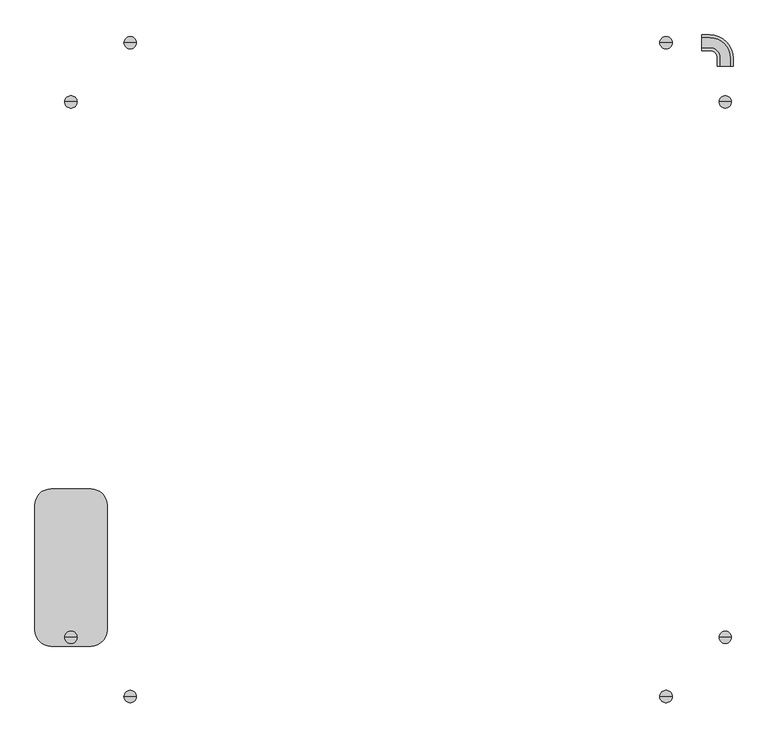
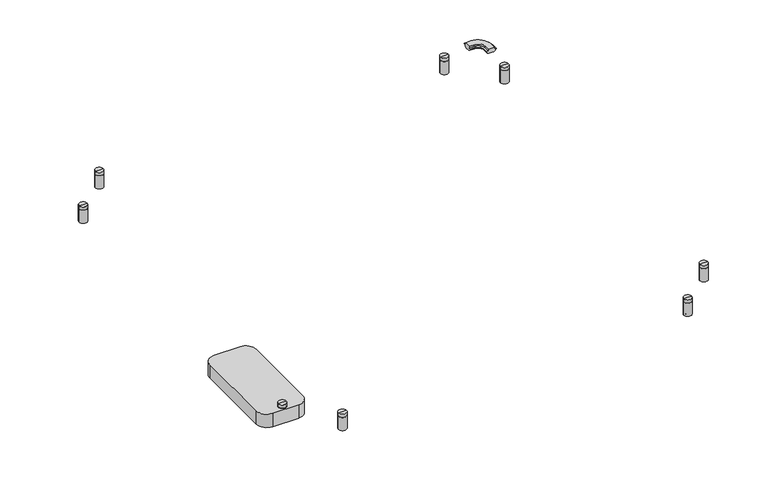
"""IFC4 building model written with IfcOpenShell, lengths in millimetres: light fixture geometry, ARTEMIDE-AoL-StandAlone-SquareRectangular_WallCeiling : StandALone_WallCeiling_SquareRectangular-1321x1321mm 9488lm 3000K."""

from ifc_helpers import new_model, si_unit, point, frame, frame_2d, origin, origin_with_axes, place, context, project, spatial, polyline, circle_curve, ellipse_curve, trimmed, segment, composite_curve, outline, extrude, source, transform, mapped, element, save
from ifc_brep_helpers import plane_surface, cylinder_surface, revolved_surface, advanced_brep


def light_fixture_6c686f26(model_context):
    return source(origin(), model_context, "Body", "SolidModel", [
        advanced_brep(
        [(152.0, 1156.0, 1.0), (128.0, 1156.0, 1.0), (134.5, 1156.0, 1.0), (145.5, 1156.0, 1.0), (152.0, 1156.0, 42.5), (128.0, 1156.0, 42.5), (149.5243756, 1156.0, 42.5), (130.4756244, 1156.0, 42.5), (149.5243756, 1156.0, 43.4995055), (130.4756244, 1156.0, 43.4995055), (152.0, 1156.0, 43.4995055), (128.0, 1156.0, 43.4995055), (152.0, 1156.0, 52.9579379), (128.0, 1156.0, 52.9579379), (140.0, 1156.0, 52.9579379), (145.5, 1156.0, 0.0), (134.5, 1156.0, 0.0), (140.0, 1156.0, 0.0)],
        [
            (0, 1, circle_curve(frame((140.0, 1156.0, 1.0), z_axis=(0.0, 0.0, -1.0), x_axis=(-1.0, 0.0, 0.0)), 12.0)),
            (1, 2),
            (2, 3, circle_curve(frame((140.0, 1156.0, 1.0), z_axis=(0.0, 0.0, 1.0), x_axis=(-1.0, 0.0, 0.0)), 5.5)),
            (3, 0),
            (1, 0, circle_curve(frame((140.0, 1156.0, 1.0), z_axis=(0.0, 0.0, -1.0), x_axis=(-1.0, 0.0, 0.0)), 12.0)),
            (3, 2, circle_curve(frame((140.0, 1156.0, 1.0), z_axis=(0.0, 0.0, 1.0), x_axis=(-1.0, 0.0, 0.0)), 5.5)),
            (4, 5, circle_curve(frame((140.0, 1156.0, 42.5), z_axis=(0.0, 0.0, -1.0), x_axis=(-1.0, 0.0, 0.0)), 12.0)),
            (5, 1),
            (0, 4),
            (5, 4, circle_curve(frame((140.0, 1156.0, 42.5), z_axis=(0.0, 0.0, -1.0), x_axis=(-1.0, 0.0, 0.0)), 12.0)),
            (6, 7, circle_curve(frame((140.0, 1156.0, 42.5), z_axis=(0.0, 0.0, -1.0), x_axis=(-1.0, 0.0, 0.0)), 9.5243756)),
            (7, 5),
            (4, 6),
            (7, 6, circle_curve(frame((140.0, 1156.0, 42.5), z_axis=(0.0, 0.0, -1.0), x_axis=(-1.0, 0.0, 0.0)), 9.5243756)),
            (8, 9, circle_curve(frame((140.0, 1156.0, 43.4995055), z_axis=(0.0, 0.0, -1.0), x_axis=(-1.0, 0.0, 0.0)), 9.5243756)),
            (9, 7),
            (6, 8),
            (9, 8, circle_curve(frame((140.0, 1156.0, 43.4995055), z_axis=(0.0, 0.0, -1.0), x_axis=(-1.0, 0.0, 0.0)), 9.5243756)),
            (10, 11, circle_curve(frame((140.0, 1156.0, 43.4995055), z_axis=(0.0, 0.0, -1.0), x_axis=(-1.0, 0.0, 0.0)), 12.0)),
            (11, 9),
            (8, 10),
            (11, 10, circle_curve(frame((140.0, 1156.0, 43.4995055), z_axis=(0.0, 0.0, -1.0), x_axis=(-1.0, 0.0, 0.0)), 12.0)),
            (12, 13, circle_curve(frame((140.0, 1156.0, 52.9579379), z_axis=(0.0, 0.0, -1.0), x_axis=(-1.0, 0.0, 0.0)), 12.0)),
            (13, 11),
            (10, 12),
            (13, 12, circle_curve(frame((140.0, 1156.0, 52.9579379), z_axis=(0.0, 0.0, -1.0), x_axis=(-1.0, 0.0, 0.0)), 12.0)),
            (14, 13),
            (12, 14),
            (15, 16, circle_curve(frame((140.0, 1156.0, 0.0), z_axis=(0.0, 0.0, -1.0), x_axis=(-1.0, 0.0, 0.0)), 5.5)),
            (16, 17),
            (17, 15),
            (16, 15, circle_curve(frame((140.0, 1156.0, 0.0), z_axis=(0.0, 0.0, -1.0), x_axis=(-1.0, 0.0, 0.0)), 5.5)),
            (2, 16),
            (15, 3),
        ],
        [
            plane_surface(frame((140.0, 1156.0, 1.0), z_axis=(0.0, 0.0, -1.0), x_axis=(-1.0, 0.0, 0.0))),
            cylinder_surface(frame((140.0, 1156.0, -58.83358), z_axis=(0.0, 0.0, 1.0), x_axis=(-1.0, 0.0, 0.0)), 12.0),
            plane_surface(frame((140.0, 1156.0, 42.5), z_axis=(0.0, 0.0, 1.0), x_axis=(-1.0, 0.0, 0.0))),
            cylinder_surface(frame((140.0, 1156.0, -58.83358), z_axis=(0.0, 0.0, 1.0), x_axis=(-1.0, 0.0, 0.0)), 9.5243756),
            plane_surface(frame((140.0, 1156.0, 43.4995055), z_axis=(0.0, 0.0, -1.0), x_axis=(-1.0, 0.0, 0.0))),
            plane_surface(frame((140.0, 1156.0, 52.9579379), z_axis=(0.0, 0.0, 1.0), x_axis=(-1.0, 0.0, 0.0))),
            plane_surface(frame((140.0, 1156.0, 0.0), z_axis=(0.0, 0.0, -1.0), x_axis=(-1.0, 0.0, 0.0))),
            cylinder_surface(frame((140.0, 1156.0, -58.83358), z_axis=(0.0, 0.0, 1.0), x_axis=(-1.0, 0.0, 0.0)), 5.5),
        ],
        [
            (0, [[1, 2, 3, 4]]),
            (0, [[5, -4, 6, -2]]),
            (1, [[7, 8, -1, 9]]),
            (1, [[10, -9, -5, -8]]),
            (2, [[11, 12, -7, 13]]),
            (2, [[14, -13, -10, -12]]),
            (3, [[15, 16, -11, 17]]),
            (3, [[18, -17, -14, -16]]),
            (4, [[19, 20, -15, 21]]),
            (4, [[22, -21, -18, -20]]),
            (1, [[23, 24, -19, 25]]),
            (1, [[26, -25, -22, -24]]),
            (5, [[27, -23, 28]]),
            (5, [[-28, -26, -27]]),
            (6, [[29, 30, 31]]),
            (6, [[32, -31, -30]]),
            (7, [[-3, 33, -29, 34]]),
            (7, [[-6, -34, -32, -33]]),
        ],
    ),
        advanced_brep(
        [(152.0, -115.0, 1.0), (128.0, -115.0, 1.0), (134.5, -115.0, 1.0), (145.5, -115.0, 1.0), (152.0, -115.0, 42.5), (128.0, -115.0, 42.5), (149.5243756, -115.0, 42.5), (130.4756244, -115.0, 42.5), (149.5243756, -115.0, 43.4995055), (130.4756244, -115.0, 43.4995055), (152.0, -115.0, 43.4995055), (128.0, -115.0, 43.4995055), (152.0, -115.0, 52.9579379), (128.0, -115.0, 52.9579379), (140.0, -115.0, 52.9579379), (145.5, -115.0, 0.0), (134.5, -115.0, 0.0), (140.0, -115.0, 0.0)],
        [
            (0, 1, circle_curve(frame((140.0, -115.0, 1.0), z_axis=(0.0, 0.0, -1.0), x_axis=(-1.0, 0.0, 0.0)), 12.0)),
            (1, 2),
            (2, 3, circle_curve(frame((140.0, -115.0, 1.0), z_axis=(0.0, 0.0, 1.0), x_axis=(-1.0, 0.0, 0.0)), 5.5)),
            (3, 0),
            (1, 0, circle_curve(frame((140.0, -115.0, 1.0), z_axis=(0.0, 0.0, -1.0), x_axis=(-1.0, 0.0, 0.0)), 12.0)),
            (3, 2, circle_curve(frame((140.0, -115.0, 1.0), z_axis=(0.0, 0.0, 1.0), x_axis=(-1.0, 0.0, 0.0)), 5.5)),
            (4, 5, circle_curve(frame((140.0, -115.0, 42.5), z_axis=(0.0, 0.0, -1.0), x_axis=(-1.0, 0.0, 0.0)), 12.0)),
            (5, 1),
            (0, 4),
            (5, 4, circle_curve(frame((140.0, -115.0, 42.5), z_axis=(0.0, 0.0, -1.0), x_axis=(-1.0, 0.0, 0.0)), 12.0)),
            (6, 7, circle_curve(frame((140.0, -115.0, 42.5), z_axis=(0.0, 0.0, -1.0), x_axis=(-1.0, 0.0, 0.0)), 9.5243756)),
            (7, 5),
            (4, 6),
            (7, 6, circle_curve(frame((140.0, -115.0, 42.5), z_axis=(0.0, 0.0, -1.0), x_axis=(-1.0, 0.0, 0.0)), 9.5243756)),
            (8, 9, circle_curve(frame((140.0, -115.0, 43.4995055), z_axis=(0.0, 0.0, -1.0), x_axis=(-1.0, 0.0, 0.0)), 9.5243756)),
            (9, 7),
            (6, 8),
            (9, 8, circle_curve(frame((140.0, -115.0, 43.4995055), z_axis=(0.0, 0.0, -1.0), x_axis=(-1.0, 0.0, 0.0)), 9.5243756)),
            (10, 11, circle_curve(frame((140.0, -115.0, 43.4995055), z_axis=(0.0, 0.0, -1.0), x_axis=(-1.0, 0.0, 0.0)), 12.0)),
            (11, 9),
            (8, 10),
            (11, 10, circle_curve(frame((140.0, -115.0, 43.4995055), z_axis=(0.0, 0.0, -1.0), x_axis=(-1.0, 0.0, 0.0)), 12.0)),
            (12, 13, circle_curve(frame((140.0, -115.0, 52.9579379), z_axis=(0.0, 0.0, -1.0), x_axis=(-1.0, 0.0, 0.0)), 12.0)),
            (13, 11),
            (10, 12),
            (13, 12, circle_curve(frame((140.0, -115.0, 52.9579379), z_axis=(0.0, 0.0, -1.0), x_axis=(-1.0, 0.0, 0.0)), 12.0)),
            (14, 13),
            (12, 14),
            (15, 16, circle_curve(frame((140.0, -115.0, 0.0), z_axis=(0.0, 0.0, -1.0), x_axis=(-1.0, 0.0, 0.0)), 5.5)),
            (16, 17),
            (17, 15),
            (16, 15, circle_curve(frame((140.0, -115.0, 0.0), z_axis=(0.0, 0.0, -1.0), x_axis=(-1.0, 0.0, 0.0)), 5.5)),
            (2, 16),
            (15, 3),
        ],
        [
            plane_surface(frame((140.0, -115.0, 1.0), z_axis=(0.0, 0.0, -1.0), x_axis=(-1.0, 0.0, 0.0))),
            cylinder_surface(frame((140.0, -115.0, -58.83358), z_axis=(0.0, 0.0, 1.0), x_axis=(-1.0, 0.0, 0.0)), 12.0),
            plane_surface(frame((140.0, -115.0, 42.5), z_axis=(0.0, 0.0, 1.0), x_axis=(-1.0, 0.0, 0.0))),
            cylinder_surface(frame((140.0, -115.0, -58.83358), z_axis=(0.0, 0.0, 1.0), x_axis=(-1.0, 0.0, 0.0)), 9.5243756),
            plane_surface(frame((140.0, -115.0, 43.4995055), z_axis=(0.0, 0.0, -1.0), x_axis=(-1.0, 0.0, 0.0))),
            plane_surface(frame((140.0, -115.0, 52.9579379), z_axis=(0.0, 0.0, 1.0), x_axis=(-1.0, 0.0, 0.0))),
            plane_surface(frame((140.0, -115.0, 0.0), z_axis=(0.0, 0.0, -1.0), x_axis=(-1.0, 0.0, 0.0))),
            cylinder_surface(frame((140.0, -115.0, -58.83358), z_axis=(0.0, 0.0, 1.0), x_axis=(-1.0, 0.0, 0.0)), 5.5),
        ],
        [
            (0, [[1, 2, 3, 4]]),
            (0, [[5, -4, 6, -2]]),
            (1, [[7, 8, -1, 9]]),
            (1, [[10, -9, -5, -8]]),
            (2, [[11, 12, -7, 13]]),
            (2, [[14, -13, -10, -12]]),
            (3, [[15, 16, -11, 17]]),
            (3, [[18, -17, -14, -16]]),
            (4, [[19, 20, -15, 21]]),
            (4, [[22, -21, -18, -20]]),
            (1, [[23, 24, -19, 25]]),
            (1, [[26, -25, -22, -24]]),
            (5, [[27, -23, 28]]),
            (5, [[-28, -26, -27]]),
            (6, [[29, 30, 31]]),
            (6, [[32, -31, -30]]),
            (7, [[-3, 33, -29, 34]]),
            (7, [[-6, -34, -32, -33]]),
        ],
    ),
        advanced_brep(
        [(1193.0, 1156.0, 1.0), (1169.0, 1156.0, 1.0), (1175.5, 1156.0, 1.0), (1186.5, 1156.0, 1.0), (1193.0, 1156.0, 42.5), (1169.0, 1156.0, 42.5), (1190.5243756, 1156.0, 42.5), (1171.4756244, 1156.0, 42.5), (1190.5243756, 1156.0, 43.4995055), (1171.4756244, 1156.0, 43.4995055), (1193.0, 1156.0, 43.4995055), (1169.0, 1156.0, 43.4995055), (1193.0, 1156.0, 52.9579379), (1169.0, 1156.0, 52.9579379), (1181.0, 1156.0, 52.9579379), (1186.5, 1156.0, 0.0), (1175.5, 1156.0, 0.0), (1181.0, 1156.0, 0.0)],
        [
            (0, 1, circle_curve(frame((1181.0, 1156.0, 1.0), z_axis=(0.0, 0.0, -1.0), x_axis=(-1.0, 0.0, 0.0)), 12.0)),
            (1, 2),
            (2, 3, circle_curve(frame((1181.0, 1156.0, 1.0), z_axis=(0.0, 0.0, 1.0), x_axis=(-1.0, 0.0, 0.0)), 5.5)),
            (3, 0),
            (1, 0, circle_curve(frame((1181.0, 1156.0, 1.0), z_axis=(0.0, 0.0, -1.0), x_axis=(-1.0, 0.0, 0.0)), 12.0)),
            (3, 2, circle_curve(frame((1181.0, 1156.0, 1.0), z_axis=(0.0, 0.0, 1.0), x_axis=(-1.0, 0.0, 0.0)), 5.5)),
            (4, 5, circle_curve(frame((1181.0, 1156.0, 42.5), z_axis=(0.0, 0.0, -1.0), x_axis=(-1.0, 0.0, 0.0)), 12.0)),
            (5, 1),
            (0, 4),
            (5, 4, circle_curve(frame((1181.0, 1156.0, 42.5), z_axis=(0.0, 0.0, -1.0), x_axis=(-1.0, 0.0, 0.0)), 12.0)),
            (6, 7, circle_curve(frame((1181.0, 1156.0, 42.5), z_axis=(0.0, 0.0, -1.0), x_axis=(-1.0, 0.0, 0.0)), 9.5243756)),
            (7, 5),
            (4, 6),
            (7, 6, circle_curve(frame((1181.0, 1156.0, 42.5), z_axis=(0.0, 0.0, -1.0), x_axis=(-1.0, 0.0, 0.0)), 9.5243756)),
            (8, 9, circle_curve(frame((1181.0, 1156.0, 43.4995055), z_axis=(0.0, 0.0, -1.0), x_axis=(-1.0, 0.0, 0.0)), 9.5243756)),
            (9, 7),
            (6, 8),
            (9, 8, circle_curve(frame((1181.0, 1156.0, 43.4995055), z_axis=(0.0, 0.0, -1.0), x_axis=(-1.0, 0.0, 0.0)), 9.5243756)),
            (10, 11, circle_curve(frame((1181.0, 1156.0, 43.4995055), z_axis=(0.0, 0.0, -1.0), x_axis=(-1.0, 0.0, 0.0)), 12.0)),
            (11, 9),
            (8, 10),
            (11, 10, circle_curve(frame((1181.0, 1156.0, 43.4995055), z_axis=(0.0, 0.0, -1.0), x_axis=(-1.0, 0.0, 0.0)), 12.0)),
            (12, 13, circle_curve(frame((1181.0, 1156.0, 52.9579379), z_axis=(0.0, 0.0, -1.0), x_axis=(-1.0, 0.0, 0.0)), 12.0)),
            (13, 11),
            (10, 12),
            (13, 12, circle_curve(frame((1181.0, 1156.0, 52.9579379), z_axis=(0.0, 0.0, -1.0), x_axis=(-1.0, 0.0, 0.0)), 12.0)),
            (14, 13),
            (12, 14),
            (15, 16, circle_curve(frame((1181.0, 1156.0, 0.0), z_axis=(0.0, 0.0, -1.0), x_axis=(-1.0, 0.0, 0.0)), 5.5)),
            (16, 17),
            (17, 15),
            (16, 15, circle_curve(frame((1181.0, 1156.0, 0.0), z_axis=(0.0, 0.0, -1.0), x_axis=(-1.0, 0.0, 0.0)), 5.5)),
            (2, 16),
            (15, 3),
        ],
        [
            plane_surface(frame((1181.0, 1156.0, 1.0), z_axis=(0.0, 0.0, -1.0), x_axis=(-1.0, 0.0, 0.0))),
            cylinder_surface(frame((1181.0, 1156.0, -58.83358), z_axis=(0.0, 0.0, 1.0), x_axis=(-1.0, 0.0, 0.0)), 12.0),
            plane_surface(frame((1181.0, 1156.0, 42.5), z_axis=(0.0, 0.0, 1.0), x_axis=(-1.0, 0.0, 0.0))),
            cylinder_surface(frame((1181.0, 1156.0, -58.83358), z_axis=(0.0, 0.0, 1.0), x_axis=(-1.0, 0.0, 0.0)), 9.5243756),
            plane_surface(frame((1181.0, 1156.0, 43.4995055), z_axis=(0.0, 0.0, -1.0), x_axis=(-1.0, 0.0, 0.0))),
            plane_surface(frame((1181.0, 1156.0, 52.9579379), z_axis=(0.0, 0.0, 1.0), x_axis=(-1.0, 0.0, 0.0))),
            plane_surface(frame((1181.0, 1156.0, 0.0), z_axis=(0.0, 0.0, -1.0), x_axis=(-1.0, 0.0, 0.0))),
            cylinder_surface(frame((1181.0, 1156.0, -58.83358), z_axis=(0.0, 0.0, 1.0), x_axis=(-1.0, 0.0, 0.0)), 5.5),
        ],
        [
            (0, [[1, 2, 3, 4]]),
            (0, [[5, -4, 6, -2]]),
            (1, [[7, 8, -1, 9]]),
            (1, [[10, -9, -5, -8]]),
            (2, [[11, 12, -7, 13]]),
            (2, [[14, -13, -10, -12]]),
            (3, [[15, 16, -11, 17]]),
            (3, [[18, -17, -14, -16]]),
            (4, [[19, 20, -15, 21]]),
            (4, [[22, -21, -18, -20]]),
            (1, [[23, 24, -19, 25]]),
            (1, [[26, -25, -22, -24]]),
            (5, [[27, -23, 28]]),
            (5, [[-28, -26, -27]]),
            (6, [[29, 30, 31]]),
            (6, [[32, -31, -30]]),
            (7, [[-3, 33, -29, 34]]),
            (7, [[-6, -34, -32, -33]]),
        ],
    ),
        advanced_brep(
        [(1193.0, -115.0, 1.0), (1169.0, -115.0, 1.0), (1175.5, -115.0, 1.0), (1186.5, -115.0, 1.0), (1193.0, -115.0, 42.5), (1169.0, -115.0, 42.5), (1190.5243756, -115.0, 42.5), (1171.4756244, -115.0, 42.5), (1190.5243756, -115.0, 43.4995055), (1171.4756244, -115.0, 43.4995055), (1193.0, -115.0, 43.4995055), (1169.0, -115.0, 43.4995055), (1193.0, -115.0, 52.9579379), (1169.0, -115.0, 52.9579379), (1181.0, -115.0, 52.9579379), (1186.5, -115.0, 0.0), (1175.5, -115.0, 0.0), (1181.0, -115.0, 0.0)],
        [
            (0, 1, circle_curve(frame((1181.0, -115.0, 1.0), z_axis=(0.0, 0.0, -1.0), x_axis=(-1.0, 0.0, 0.0)), 12.0)),
            (1, 2),
            (2, 3, circle_curve(frame((1181.0, -115.0, 1.0), z_axis=(0.0, 0.0, 1.0), x_axis=(-1.0, 0.0, 0.0)), 5.5)),
            (3, 0),
            (1, 0, circle_curve(frame((1181.0, -115.0, 1.0), z_axis=(0.0, 0.0, -1.0), x_axis=(-1.0, 0.0, 0.0)), 12.0)),
            (3, 2, circle_curve(frame((1181.0, -115.0, 1.0), z_axis=(0.0, 0.0, 1.0), x_axis=(-1.0, 0.0, 0.0)), 5.5)),
            (4, 5, circle_curve(frame((1181.0, -115.0, 42.5), z_axis=(0.0, 0.0, -1.0), x_axis=(-1.0, 0.0, 0.0)), 12.0)),
            (5, 1),
            (0, 4),
            (5, 4, circle_curve(frame((1181.0, -115.0, 42.5), z_axis=(0.0, 0.0, -1.0), x_axis=(-1.0, 0.0, 0.0)), 12.0)),
            (6, 7, circle_curve(frame((1181.0, -115.0, 42.5), z_axis=(0.0, 0.0, -1.0), x_axis=(-1.0, 0.0, 0.0)), 9.5243756)),
            (7, 5),
            (4, 6),
            (7, 6, circle_curve(frame((1181.0, -115.0, 42.5), z_axis=(0.0, 0.0, -1.0), x_axis=(-1.0, 0.0, 0.0)), 9.5243756)),
            (8, 9, circle_curve(frame((1181.0, -115.0, 43.4995055), z_axis=(0.0, 0.0, -1.0), x_axis=(-1.0, 0.0, 0.0)), 9.5243756)),
            (9, 7),
            (6, 8),
            (9, 8, circle_curve(frame((1181.0, -115.0, 43.4995055), z_axis=(0.0, 0.0, -1.0), x_axis=(-1.0, 0.0, 0.0)), 9.5243756)),
            (10, 11, circle_curve(frame((1181.0, -115.0, 43.4995055), z_axis=(0.0, 0.0, -1.0), x_axis=(-1.0, 0.0, 0.0)), 12.0)),
            (11, 9),
            (8, 10),
            (11, 10, circle_curve(frame((1181.0, -115.0, 43.4995055), z_axis=(0.0, 0.0, -1.0), x_axis=(-1.0, 0.0, 0.0)), 12.0)),
            (12, 13, circle_curve(frame((1181.0, -115.0, 52.9579379), z_axis=(0.0, 0.0, -1.0), x_axis=(-1.0, 0.0, 0.0)), 12.0)),
            (13, 11),
            (10, 12),
            (13, 12, circle_curve(frame((1181.0, -115.0, 52.9579379), z_axis=(0.0, 0.0, -1.0), x_axis=(-1.0, 0.0, 0.0)), 12.0)),
            (14, 13),
            (12, 14),
            (15, 16, circle_curve(frame((1181.0, -115.0, 0.0), z_axis=(0.0, 0.0, -1.0), x_axis=(-1.0, 0.0, 0.0)), 5.5)),
            (16, 17),
            (17, 15),
            (16, 15, circle_curve(frame((1181.0, -115.0, 0.0), z_axis=(0.0, 0.0, -1.0), x_axis=(-1.0, 0.0, 0.0)), 5.5)),
            (2, 16),
            (15, 3),
        ],
        [
            plane_surface(frame((1181.0, -115.0, 1.0), z_axis=(0.0, 0.0, -1.0), x_axis=(-1.0, 0.0, 0.0))),
            cylinder_surface(frame((1181.0, -115.0, -58.83358), z_axis=(0.0, 0.0, 1.0), x_axis=(-1.0, 0.0, 0.0)), 12.0),
            plane_surface(frame((1181.0, -115.0, 42.5), z_axis=(0.0, 0.0, 1.0), x_axis=(-1.0, 0.0, 0.0))),
            cylinder_surface(frame((1181.0, -115.0, -58.83358), z_axis=(0.0, 0.0, 1.0), x_axis=(-1.0, 0.0, 0.0)), 9.5243756),
            plane_surface(frame((1181.0, -115.0, 43.4995055), z_axis=(0.0, 0.0, -1.0), x_axis=(-1.0, 0.0, 0.0))),
            plane_surface(frame((1181.0, -115.0, 52.9579379), z_axis=(0.0, 0.0, 1.0), x_axis=(-1.0, 0.0, 0.0))),
            plane_surface(frame((1181.0, -115.0, 0.0), z_axis=(0.0, 0.0, -1.0), x_axis=(-1.0, 0.0, 0.0))),
            cylinder_surface(frame((1181.0, -115.0, -58.83358), z_axis=(0.0, 0.0, 1.0), x_axis=(-1.0, 0.0, 0.0)), 5.5),
        ],
        [
            (0, [[1, 2, 3, 4]]),
            (0, [[5, -4, 6, -2]]),
            (1, [[7, 8, -1, 9]]),
            (1, [[10, -9, -5, -8]]),
            (2, [[11, 12, -7, 13]]),
            (2, [[14, -13, -10, -12]]),
            (3, [[15, 16, -11, 17]]),
            (3, [[18, -17, -14, -16]]),
            (4, [[19, 20, -15, 21]]),
            (4, [[22, -21, -18, -20]]),
            (1, [[23, 24, -19, 25]]),
            (1, [[26, -25, -22, -24]]),
            (5, [[27, -23, 28]]),
            (5, [[-28, -26, -27]]),
            (6, [[29, 30, 31]]),
            (6, [[32, -31, -30]]),
            (7, [[-3, 33, -29, 34]]),
            (7, [[-6, -34, -32, -33]]),
        ],
    ),
        advanced_brep(
        [(37.0, 1041.0, 1.0), (13.0, 1041.0, 1.0), (19.5, 1041.0, 1.0), (30.5, 1041.0, 1.0), (37.0, 1041.0, 42.5), (13.0, 1041.0, 42.5), (34.5243756, 1041.0, 42.5), (15.4756244, 1041.0, 42.5), (34.5243756, 1041.0, 43.4995055), (15.4756244, 1041.0, 43.4995055), (37.0, 1041.0, 43.4995055), (13.0, 1041.0, 43.4995055), (37.0, 1041.0, 52.9579379), (13.0, 1041.0, 52.9579379), (25.0, 1041.0, 52.9579379), (30.5, 1041.0, 0.0), (19.5, 1041.0, 0.0), (25.0, 1041.0, 0.0)],
        [
            (0, 1, circle_curve(frame((25.0, 1041.0, 1.0), z_axis=(0.0, 0.0, -1.0), x_axis=(-1.0, 0.0, 0.0)), 12.0)),
            (1, 2),
            (2, 3, circle_curve(frame((25.0, 1041.0, 1.0), z_axis=(0.0, 0.0, 1.0), x_axis=(-1.0, 0.0, 0.0)), 5.5)),
            (3, 0),
            (1, 0, circle_curve(frame((25.0, 1041.0, 1.0), z_axis=(0.0, 0.0, -1.0), x_axis=(-1.0, 0.0, 0.0)), 12.0)),
            (3, 2, circle_curve(frame((25.0, 1041.0, 1.0), z_axis=(0.0, 0.0, 1.0), x_axis=(-1.0, 0.0, 0.0)), 5.5)),
            (4, 5, circle_curve(frame((25.0, 1041.0, 42.5), z_axis=(0.0, 0.0, -1.0), x_axis=(-1.0, 0.0, 0.0)), 12.0)),
            (5, 1),
            (0, 4),
            (5, 4, circle_curve(frame((25.0, 1041.0, 42.5), z_axis=(0.0, 0.0, -1.0), x_axis=(-1.0, 0.0, 0.0)), 12.0)),
            (6, 7, circle_curve(frame((25.0, 1041.0, 42.5), z_axis=(0.0, 0.0, -1.0), x_axis=(-1.0, 0.0, 0.0)), 9.5243756)),
            (7, 5),
            (4, 6),
            (7, 6, circle_curve(frame((25.0, 1041.0, 42.5), z_axis=(0.0, 0.0, -1.0), x_axis=(-1.0, 0.0, 0.0)), 9.5243756)),
            (8, 9, circle_curve(frame((25.0, 1041.0, 43.4995055), z_axis=(0.0, 0.0, -1.0), x_axis=(-1.0, 0.0, 0.0)), 9.5243756)),
            (9, 7),
            (6, 8),
            (9, 8, circle_curve(frame((25.0, 1041.0, 43.4995055), z_axis=(0.0, 0.0, -1.0), x_axis=(-1.0, 0.0, 0.0)), 9.5243756)),
            (10, 11, circle_curve(frame((25.0, 1041.0, 43.4995055), z_axis=(0.0, 0.0, -1.0), x_axis=(-1.0, 0.0, 0.0)), 12.0)),
            (11, 9),
            (8, 10),
            (11, 10, circle_curve(frame((25.0, 1041.0, 43.4995055), z_axis=(0.0, 0.0, -1.0), x_axis=(-1.0, 0.0, 0.0)), 12.0)),
            (12, 13, circle_curve(frame((25.0, 1041.0, 52.9579379), z_axis=(0.0, 0.0, -1.0), x_axis=(-1.0, 0.0, 0.0)), 12.0)),
            (13, 11),
            (10, 12),
            (13, 12, circle_curve(frame((25.0, 1041.0, 52.9579379), z_axis=(0.0, 0.0, -1.0), x_axis=(-1.0, 0.0, 0.0)), 12.0)),
            (14, 13),
            (12, 14),
            (15, 16, circle_curve(frame((25.0, 1041.0, 0.0), z_axis=(0.0, 0.0, -1.0), x_axis=(-1.0, 0.0, 0.0)), 5.5)),
            (16, 17),
            (17, 15),
            (16, 15, circle_curve(frame((25.0, 1041.0, 0.0), z_axis=(0.0, 0.0, -1.0), x_axis=(-1.0, 0.0, 0.0)), 5.5)),
            (2, 16),
            (15, 3),
        ],
        [
            plane_surface(frame((25.0, 1041.0, 1.0), z_axis=(0.0, 0.0, -1.0), x_axis=(-1.0, 0.0, 0.0))),
            cylinder_surface(frame((25.0, 1041.0, -58.83358), z_axis=(0.0, 0.0, 1.0), x_axis=(-1.0, 0.0, 0.0)), 12.0),
            plane_surface(frame((25.0, 1041.0, 42.5), z_axis=(0.0, 0.0, 1.0), x_axis=(-1.0, 0.0, 0.0))),
            cylinder_surface(frame((25.0, 1041.0, -58.83358), z_axis=(0.0, 0.0, 1.0), x_axis=(-1.0, 0.0, 0.0)), 9.5243756),
            plane_surface(frame((25.0, 1041.0, 43.4995055), z_axis=(0.0, 0.0, -1.0), x_axis=(-1.0, 0.0, 0.0))),
            plane_surface(frame((25.0, 1041.0, 52.9579379), z_axis=(0.0, 0.0, 1.0), x_axis=(-1.0, 0.0, 0.0))),
            plane_surface(frame((25.0, 1041.0, 0.0), z_axis=(0.0, 0.0, -1.0), x_axis=(-1.0, 0.0, 0.0))),
            cylinder_surface(frame((25.0, 1041.0, -58.83358), z_axis=(0.0, 0.0, 1.0), x_axis=(-1.0, 0.0, 0.0)), 5.5),
        ],
        [
            (0, [[1, 2, 3, 4]]),
            (0, [[5, -4, 6, -2]]),
            (1, [[7, 8, -1, 9]]),
            (1, [[10, -9, -5, -8]]),
            (2, [[11, 12, -7, 13]]),
            (2, [[14, -13, -10, -12]]),
            (3, [[15, 16, -11, 17]]),
            (3, [[18, -17, -14, -16]]),
            (4, [[19, 20, -15, 21]]),
            (4, [[22, -21, -18, -20]]),
            (1, [[23, 24, -19, 25]]),
            (1, [[26, -25, -22, -24]]),
            (5, [[27, -23, 28]]),
            (5, [[-28, -26, -27]]),
            (6, [[29, 30, 31]]),
            (6, [[32, -31, -30]]),
            (7, [[-3, 33, -29, 34]]),
            (7, [[-6, -34, -32, -33]]),
        ],
    ),
        advanced_brep(
        [(1308.0, 1041.0, 1.0), (1284.0, 1041.0, 1.0), (1290.5, 1041.0, 1.0), (1301.5, 1041.0, 1.0), (1308.0, 1041.0, 42.5), (1284.0, 1041.0, 42.5), (1305.5243756, 1041.0, 42.5), (1286.4756244, 1041.0, 42.5), (1305.5243756, 1041.0, 43.4995055), (1286.4756244, 1041.0, 43.4995055), (1308.0, 1041.0, 43.4995055), (1284.0, 1041.0, 43.4995055), (1308.0, 1041.0, 52.9579379), (1284.0, 1041.0, 52.9579379), (1296.0, 1041.0, 52.9579379), (1301.5, 1041.0, 0.0), (1290.5, 1041.0, 0.0), (1296.0, 1041.0, 0.0)],
        [
            (0, 1, circle_curve(frame((1296.0, 1041.0, 1.0), z_axis=(0.0, 0.0, -1.0), x_axis=(-1.0, 0.0, 0.0)), 12.0)),
            (1, 2),
            (2, 3, circle_curve(frame((1296.0, 1041.0, 1.0), z_axis=(0.0, 0.0, 1.0), x_axis=(-1.0, 0.0, 0.0)), 5.5)),
            (3, 0),
            (1, 0, circle_curve(frame((1296.0, 1041.0, 1.0), z_axis=(0.0, 0.0, -1.0), x_axis=(-1.0, 0.0, 0.0)), 12.0)),
            (3, 2, circle_curve(frame((1296.0, 1041.0, 1.0), z_axis=(0.0, 0.0, 1.0), x_axis=(-1.0, 0.0, 0.0)), 5.5)),
            (4, 5, circle_curve(frame((1296.0, 1041.0, 42.5), z_axis=(0.0, 0.0, -1.0), x_axis=(-1.0, 0.0, 0.0)), 12.0)),
            (5, 1),
            (0, 4),
            (5, 4, circle_curve(frame((1296.0, 1041.0, 42.5), z_axis=(0.0, 0.0, -1.0), x_axis=(-1.0, 0.0, 0.0)), 12.0)),
            (6, 7, circle_curve(frame((1296.0, 1041.0, 42.5), z_axis=(0.0, 0.0, -1.0), x_axis=(-1.0, 0.0, 0.0)), 9.5243756)),
            (7, 5),
            (4, 6),
            (7, 6, circle_curve(frame((1296.0, 1041.0, 42.5), z_axis=(0.0, 0.0, -1.0), x_axis=(-1.0, 0.0, 0.0)), 9.5243756)),
            (8, 9, circle_curve(frame((1296.0, 1041.0, 43.4995055), z_axis=(0.0, 0.0, -1.0), x_axis=(-1.0, 0.0, 0.0)), 9.5243756)),
            (9, 7),
            (6, 8),
            (9, 8, circle_curve(frame((1296.0, 1041.0, 43.4995055), z_axis=(0.0, 0.0, -1.0), x_axis=(-1.0, 0.0, 0.0)), 9.5243756)),
            (10, 11, circle_curve(frame((1296.0, 1041.0, 43.4995055), z_axis=(0.0, 0.0, -1.0), x_axis=(-1.0, 0.0, 0.0)), 12.0)),
            (11, 9),
            (8, 10),
            (11, 10, circle_curve(frame((1296.0, 1041.0, 43.4995055), z_axis=(0.0, 0.0, -1.0), x_axis=(-1.0, 0.0, 0.0)), 12.0)),
            (12, 13, circle_curve(frame((1296.0, 1041.0, 52.9579379), z_axis=(0.0, 0.0, -1.0), x_axis=(-1.0, 0.0, 0.0)), 12.0)),
            (13, 11),
            (10, 12),
            (13, 12, circle_curve(frame((1296.0, 1041.0, 52.9579379), z_axis=(0.0, 0.0, -1.0), x_axis=(-1.0, 0.0, 0.0)), 12.0)),
            (14, 13),
            (12, 14),
            (15, 16, circle_curve(frame((1296.0, 1041.0, 0.0), z_axis=(0.0, 0.0, -1.0), x_axis=(-1.0, 0.0, 0.0)), 5.5)),
            (16, 17),
            (17, 15),
            (16, 15, circle_curve(frame((1296.0, 1041.0, 0.0), z_axis=(0.0, 0.0, -1.0), x_axis=(-1.0, 0.0, 0.0)), 5.5)),
            (2, 16),
            (15, 3),
        ],
        [
            plane_surface(frame((1296.0, 1041.0, 1.0), z_axis=(0.0, 0.0, -1.0), x_axis=(-1.0, 0.0, 0.0))),
            cylinder_surface(frame((1296.0, 1041.0, -58.83358), z_axis=(0.0, 0.0, 1.0), x_axis=(-1.0, 0.0, 0.0)), 12.0),
            plane_surface(frame((1296.0, 1041.0, 42.5), z_axis=(0.0, 0.0, 1.0), x_axis=(-1.0, 0.0, 0.0))),
            cylinder_surface(frame((1296.0, 1041.0, -58.83358), z_axis=(0.0, 0.0, 1.0), x_axis=(-1.0, 0.0, 0.0)), 9.5243756),
            plane_surface(frame((1296.0, 1041.0, 43.4995055), z_axis=(0.0, 0.0, -1.0), x_axis=(-1.0, 0.0, 0.0))),
            plane_surface(frame((1296.0, 1041.0, 52.9579379), z_axis=(0.0, 0.0, 1.0), x_axis=(-1.0, 0.0, 0.0))),
            plane_surface(frame((1296.0, 1041.0, 0.0), z_axis=(0.0, 0.0, -1.0), x_axis=(-1.0, 0.0, 0.0))),
            cylinder_surface(frame((1296.0, 1041.0, -58.83358), z_axis=(0.0, 0.0, 1.0), x_axis=(-1.0, 0.0, 0.0)), 5.5),
        ],
        [
            (0, [[1, 2, 3, 4]]),
            (0, [[5, -4, 6, -2]]),
            (1, [[7, 8, -1, 9]]),
            (1, [[10, -9, -5, -8]]),
            (2, [[11, 12, -7, 13]]),
            (2, [[14, -13, -10, -12]]),
            (3, [[15, 16, -11, 17]]),
            (3, [[18, -17, -14, -16]]),
            (4, [[19, 20, -15, 21]]),
            (4, [[22, -21, -18, -20]]),
            (1, [[23, 24, -19, 25]]),
            (1, [[26, -25, -22, -24]]),
            (5, [[27, -23, 28]]),
            (5, [[-28, -26, -27]]),
            (6, [[29, 30, 31]]),
            (6, [[32, -31, -30]]),
            (7, [[-3, 33, -29, 34]]),
            (7, [[-6, -34, -32, -33]]),
        ],
    ),
        advanced_brep(
        [(37.0, 0.0, 1.0), (13.0, 0.0, 1.0), (19.5, 0.0, 1.0), (30.5, 0.0, 1.0), (37.0, 0.0, 42.5), (13.0, 0.0, 42.5), (34.5243756, 0.0, 42.5), (15.4756244, 0.0, 42.5), (34.5243756, 0.0, 43.4995055), (15.4756244, 0.0, 43.4995055), (37.0, 0.0, 43.4995055), (13.0, 0.0, 43.4995055), (37.0, 0.0, 52.9579379), (13.0, 0.0, 52.9579379), (25.0, 0.0, 52.9579379), (30.5, 0.0, 0.0), (19.5, 0.0, 0.0), (25.0, 0.0, 0.0)],
        [
            (0, 1, circle_curve(frame((25.0, 0.0, 1.0), z_axis=(0.0, 0.0, -1.0), x_axis=(-1.0, 0.0, 0.0)), 12.0)),
            (1, 2),
            (2, 3, circle_curve(frame((25.0, 0.0, 1.0), z_axis=(0.0, 0.0, 1.0), x_axis=(-1.0, 0.0, 0.0)), 5.5)),
            (3, 0),
            (1, 0, circle_curve(frame((25.0, 0.0, 1.0), z_axis=(0.0, 0.0, -1.0), x_axis=(-1.0, 0.0, 0.0)), 12.0)),
            (3, 2, circle_curve(frame((25.0, 0.0, 1.0), z_axis=(0.0, 0.0, 1.0), x_axis=(-1.0, 0.0, 0.0)), 5.5)),
            (4, 5, circle_curve(frame((25.0, 0.0, 42.5), z_axis=(0.0, 0.0, -1.0), x_axis=(-1.0, 0.0, 0.0)), 12.0)),
            (5, 1),
            (0, 4),
            (5, 4, circle_curve(frame((25.0, 0.0, 42.5), z_axis=(0.0, 0.0, -1.0), x_axis=(-1.0, 0.0, 0.0)), 12.0)),
            (6, 7, circle_curve(frame((25.0, 0.0, 42.5), z_axis=(0.0, 0.0, -1.0), x_axis=(-1.0, 0.0, 0.0)), 9.5243756)),
            (7, 5),
            (4, 6),
            (7, 6, circle_curve(frame((25.0, 0.0, 42.5), z_axis=(0.0, 0.0, -1.0), x_axis=(-1.0, 0.0, 0.0)), 9.5243756)),
            (8, 9, circle_curve(frame((25.0, 0.0, 43.4995055), z_axis=(0.0, 0.0, -1.0), x_axis=(-1.0, 0.0, 0.0)), 9.5243756)),
            (9, 7),
            (6, 8),
            (9, 8, circle_curve(frame((25.0, 0.0, 43.4995055), z_axis=(0.0, 0.0, -1.0), x_axis=(-1.0, 0.0, 0.0)), 9.5243756)),
            (10, 11, circle_curve(frame((25.0, 0.0, 43.4995055), z_axis=(0.0, 0.0, -1.0), x_axis=(-1.0, 0.0, 0.0)), 12.0)),
            (11, 9),
            (8, 10),
            (11, 10, circle_curve(frame((25.0, 0.0, 43.4995055), z_axis=(0.0, 0.0, -1.0), x_axis=(-1.0, 0.0, 0.0)), 12.0)),
            (12, 13, circle_curve(frame((25.0, 0.0, 52.9579379), z_axis=(0.0, 0.0, -1.0), x_axis=(-1.0, 0.0, 0.0)), 12.0)),
            (13, 11),
            (10, 12),
            (13, 12, circle_curve(frame((25.0, 0.0, 52.9579379), z_axis=(0.0, 0.0, -1.0), x_axis=(-1.0, 0.0, 0.0)), 12.0)),
            (14, 13),
            (12, 14),
            (15, 16, circle_curve(frame((25.0, 0.0, 0.0), z_axis=(0.0, 0.0, -1.0), x_axis=(-1.0, 0.0, 0.0)), 5.5)),
            (16, 17),
            (17, 15),
            (16, 15, circle_curve(frame((25.0, 0.0, 0.0), z_axis=(0.0, 0.0, -1.0), x_axis=(-1.0, 0.0, 0.0)), 5.5)),
            (2, 16),
            (15, 3),
        ],
        [
            plane_surface(frame((25.0, 0.0, 1.0), z_axis=(0.0, 0.0, -1.0), x_axis=(-1.0, 0.0, 0.0))),
            cylinder_surface(frame((25.0, 0.0, -58.83358), z_axis=(0.0, 0.0, 1.0), x_axis=(-1.0, 0.0, 0.0)), 12.0),
            plane_surface(frame((25.0, 0.0, 42.5), z_axis=(0.0, 0.0, 1.0), x_axis=(-1.0, 0.0, 0.0))),
            cylinder_surface(frame((25.0, 0.0, -58.83358), z_axis=(0.0, 0.0, 1.0), x_axis=(-1.0, 0.0, 0.0)), 9.5243756),
            plane_surface(frame((25.0, 0.0, 43.4995055), z_axis=(0.0, 0.0, -1.0), x_axis=(-1.0, 0.0, 0.0))),
            plane_surface(frame((25.0, 0.0, 52.9579379), z_axis=(0.0, 0.0, 1.0), x_axis=(-1.0, 0.0, 0.0))),
            plane_surface(frame((25.0, 0.0, 0.0), z_axis=(0.0, 0.0, -1.0), x_axis=(-1.0, 0.0, 0.0))),
            cylinder_surface(frame((25.0, 0.0, -58.83358), z_axis=(0.0, 0.0, 1.0), x_axis=(-1.0, 0.0, 0.0)), 5.5),
        ],
        [
            (0, [[1, 2, 3, 4]]),
            (0, [[5, -4, 6, -2]]),
            (1, [[7, 8, -1, 9]]),
            (1, [[10, -9, -5, -8]]),
            (2, [[11, 12, -7, 13]]),
            (2, [[14, -13, -10, -12]]),
            (3, [[15, 16, -11, 17]]),
            (3, [[18, -17, -14, -16]]),
            (4, [[19, 20, -15, 21]]),
            (4, [[22, -21, -18, -20]]),
            (1, [[23, 24, -19, 25]]),
            (1, [[26, -25, -22, -24]]),
            (5, [[27, -23, 28]]),
            (5, [[-28, -26, -27]]),
            (6, [[29, 30, 31]]),
            (6, [[32, -31, -30]]),
            (7, [[-3, 33, -29, 34]]),
            (7, [[-6, -34, -32, -33]]),
        ],
    ),
        advanced_brep(
        [(1308.0, 0.0, 1.0), (1284.0, 0.0, 1.0), (1290.5, 0.0, 1.0), (1301.5, 0.0, 1.0), (1308.0, 0.0, 42.5), (1284.0, 0.0, 42.5), (1305.5243756, 0.0, 42.5), (1286.4756244, 0.0, 42.5), (1305.5243756, 0.0, 43.4995055), (1286.4756244, 0.0, 43.4995055), (1308.0, 0.0, 43.4995055), (1284.0, 0.0, 43.4995055), (1308.0, 0.0, 52.9579379), (1284.0, 0.0, 52.9579379), (1296.0, 0.0, 52.9579379), (1301.5, 0.0, 0.0), (1290.5, 0.0, 0.0), (1296.0, 0.0, 0.0)],
        [
            (0, 1, circle_curve(frame((1296.0, 0.0, 1.0), z_axis=(0.0, 0.0, -1.0), x_axis=(-1.0, 0.0, 0.0)), 12.0)),
            (1, 2),
            (2, 3, circle_curve(frame((1296.0, 0.0, 1.0), z_axis=(0.0, 0.0, 1.0), x_axis=(-1.0, 0.0, 0.0)), 5.5)),
            (3, 0),
            (1, 0, circle_curve(frame((1296.0, 0.0, 1.0), z_axis=(0.0, 0.0, -1.0), x_axis=(-1.0, 0.0, 0.0)), 12.0)),
            (3, 2, circle_curve(frame((1296.0, 0.0, 1.0), z_axis=(0.0, 0.0, 1.0), x_axis=(-1.0, 0.0, 0.0)), 5.5)),
            (4, 5, circle_curve(frame((1296.0, 0.0, 42.5), z_axis=(0.0, 0.0, -1.0), x_axis=(-1.0, 0.0, 0.0)), 12.0)),
            (5, 1),
            (0, 4),
            (5, 4, circle_curve(frame((1296.0, 0.0, 42.5), z_axis=(0.0, 0.0, -1.0), x_axis=(-1.0, 0.0, 0.0)), 12.0)),
            (6, 7, circle_curve(frame((1296.0, 0.0, 42.5), z_axis=(0.0, 0.0, -1.0), x_axis=(-1.0, 0.0, 0.0)), 9.5243756)),
            (7, 5),
            (4, 6),
            (7, 6, circle_curve(frame((1296.0, 0.0, 42.5), z_axis=(0.0, 0.0, -1.0), x_axis=(-1.0, 0.0, 0.0)), 9.5243756)),
            (8, 9, circle_curve(frame((1296.0, 0.0, 43.4995055), z_axis=(0.0, 0.0, -1.0), x_axis=(-1.0, 0.0, 0.0)), 9.5243756)),
            (9, 7),
            (6, 8),
            (9, 8, circle_curve(frame((1296.0, 0.0, 43.4995055), z_axis=(0.0, 0.0, -1.0), x_axis=(-1.0, 0.0, 0.0)), 9.5243756)),
            (10, 11, circle_curve(frame((1296.0, 0.0, 43.4995055), z_axis=(0.0, 0.0, -1.0), x_axis=(-1.0, 0.0, 0.0)), 12.0)),
            (11, 9),
            (8, 10),
            (11, 10, circle_curve(frame((1296.0, 0.0, 43.4995055), z_axis=(0.0, 0.0, -1.0), x_axis=(-1.0, 0.0, 0.0)), 12.0)),
            (12, 13, circle_curve(frame((1296.0, 0.0, 52.9579379), z_axis=(0.0, 0.0, -1.0), x_axis=(-1.0, 0.0, 0.0)), 12.0)),
            (13, 11),
            (10, 12),
            (13, 12, circle_curve(frame((1296.0, 0.0, 52.9579379), z_axis=(0.0, 0.0, -1.0), x_axis=(-1.0, 0.0, 0.0)), 12.0)),
            (14, 13),
            (12, 14),
            (15, 16, circle_curve(frame((1296.0, 0.0, 0.0), z_axis=(0.0, 0.0, -1.0), x_axis=(-1.0, 0.0, 0.0)), 5.5)),
            (16, 17),
            (17, 15),
            (16, 15, circle_curve(frame((1296.0, 0.0, 0.0), z_axis=(0.0, 0.0, -1.0), x_axis=(-1.0, 0.0, 0.0)), 5.5)),
            (2, 16),
            (15, 3),
        ],
        [
            plane_surface(frame((1296.0, 0.0, 1.0), z_axis=(0.0, 0.0, -1.0), x_axis=(-1.0, 0.0, 0.0))),
            cylinder_surface(frame((1296.0, 0.0, -58.83358), z_axis=(0.0, 0.0, 1.0), x_axis=(-1.0, 0.0, 0.0)), 12.0),
            plane_surface(frame((1296.0, 0.0, 42.5), z_axis=(0.0, 0.0, 1.0), x_axis=(-1.0, 0.0, 0.0))),
            cylinder_surface(frame((1296.0, 0.0, -58.83358), z_axis=(0.0, 0.0, 1.0), x_axis=(-1.0, 0.0, 0.0)), 9.5243756),
            plane_surface(frame((1296.0, 0.0, 43.4995055), z_axis=(0.0, 0.0, -1.0), x_axis=(-1.0, 0.0, 0.0))),
            plane_surface(frame((1296.0, 0.0, 52.9579379), z_axis=(0.0, 0.0, 1.0), x_axis=(-1.0, 0.0, 0.0))),
            plane_surface(frame((1296.0, 0.0, 0.0), z_axis=(0.0, 0.0, -1.0), x_axis=(-1.0, 0.0, 0.0))),
            cylinder_surface(frame((1296.0, 0.0, -58.83358), z_axis=(0.0, 0.0, 1.0), x_axis=(-1.0, 0.0, 0.0)), 5.5),
        ],
        [
            (0, [[1, 2, 3, 4]]),
            (0, [[5, -4, 6, -2]]),
            (1, [[7, 8, -1, 9]]),
            (1, [[10, -9, -5, -8]]),
            (2, [[11, 12, -7, 13]]),
            (2, [[14, -13, -10, -12]]),
            (3, [[15, 16, -11, 17]]),
            (3, [[18, -17, -14, -16]]),
            (4, [[19, 20, -15, 21]]),
            (4, [[22, -21, -18, -20]]),
            (1, [[23, 24, -19, 25]]),
            (1, [[26, -25, -22, -24]]),
            (5, [[27, -23, 28]]),
            (5, [[-28, -26, -27]]),
            (6, [[29, 30, 31]]),
            (6, [[32, -31, -30]]),
            (7, [[-3, 33, -29, 34]]),
            (7, [[-6, -34, -32, -33]]),
        ],
    ),
        extrude(outline(composite_curve([segment(polyline([(-45.020892, 13.8708919), (-45.020892, 257.6791081)]), True, "CONTINUOUS"), segment(trimmed(circle_curve(frame_2d((-14.1500001, 257.6791081)), 30.8708919), [point((-45.020892, 257.6791081))], [point((-14.1500001, 288.55))], False, "CARTESIAN"), True, "CONTINUOUS"), segment(polyline([(-14.1500001, 288.55), (64.2, 288.55)]), True, "CONTINUOUS"), segment(trimmed(circle_curve(frame_2d((64.2, 257.6791081)), 30.8708919), [point((64.2, 288.55))], [point((95.0708919, 257.6791081))], False, "CARTESIAN"), True, "CONTINUOUS"), segment(polyline([(95.0708919, 257.6791081), (95.0708919, 13.8708919)]), True, "CONTINUOUS"), segment(trimmed(circle_curve(frame_2d((64.2, 13.8708919)), 30.8708919), [point((95.0708919, 13.8708919))], [point((64.2, -17.0))], False, "CARTESIAN"), True, "CONTINUOUS"), segment(polyline([(64.2, -17.0), (-14.1500001, -17.0)]), True, "CONTINUOUS"), segment(trimmed(circle_curve(frame_2d((-14.1500001, 13.8708919)), 30.8708919), [point((-14.1500001, -17.0))], [point((-45.020892, 13.8708919))], False, "CARTESIAN"), True, "CONTINUOUS")], self_intersect=False)), origin_with_axes(), (0.0, 0.0, 1.0), 42.0),
        advanced_brep(
        [(1307.7532014, 1110.5, 52.9333396), (1307.7532014, 1110.5, 57.259212), (1311.3072884, 1110.5, 57.259212), (1311.3072884, 1110.5, 58.785971), (1305.5094589, 1110.5, 58.785971), (1305.5094589, 1110.5, 64.4273482), (1286.4969439, 1110.5, 64.4273482), (1286.4969439, 1110.5, 58.785971), (1280.6991144, 1110.5, 58.785971), (1280.6991144, 1110.5, 57.259212), (1284.2532014, 1110.5, 57.259212), (1284.2532014, 1110.5, 52.9333396), (1250.5032014, 1167.75, 52.9333396), (1250.5032014, 1144.25, 52.9333396), (1250.5032014, 1144.25, 57.259212), (1250.5032014, 1140.695913, 57.259212), (1250.5032014, 1140.695913, 58.785971), (1250.5032014, 1146.4937425, 58.785971), (1250.5032014, 1146.4937425, 64.4273482), (1250.5032014, 1165.5062575, 64.4273482), (1250.5032014, 1165.5062575, 58.785971), (1250.5032014, 1171.304087, 58.785971), (1250.5032014, 1171.304087, 57.259212), (1250.5032014, 1167.75, 57.259212), (1284.2532014, 1126.0, 52.9333396), (1307.7532014, 1126.0, 52.9333396), (1284.2532014, 1126.0, 57.259212), (1280.6991144, 1126.0, 57.259212), (1266.0032014, 1140.695913, 57.259212), (1266.0032014, 1144.25, 57.259212), (1280.6991144, 1126.0, 58.785971), (1286.4969439, 1126.0, 58.785971), (1266.0032014, 1146.4937425, 58.785971), (1266.0032014, 1140.695913, 58.785971), (1286.4969439, 1126.0, 64.4273482), (1305.5094589, 1126.0, 64.4273482), (1266.0032014, 1165.5062575, 64.4273482), (1266.0032014, 1146.4937425, 64.4273482), (1305.5094589, 1126.0, 58.785971), (1311.3072884, 1126.0, 58.785971), (1266.0032014, 1171.304087, 58.785971), (1266.0032014, 1165.5062575, 58.785971), (1311.3072884, 1126.0, 57.259212), (1307.7532014, 1126.0, 57.259212), (1266.0032014, 1167.75, 57.259212), (1266.0032014, 1171.304087, 57.259212), (1266.0032014, 1167.75, 52.9333396), (1266.0032014, 1144.25, 52.9333396)],
        [
            (0, 1),
            (1, 2),
            (2, 3),
            (3, 4),
            (4, 5),
            (5, 6),
            (6, 7),
            (7, 8),
            (8, 9),
            (9, 10),
            (10, 11),
            (11, 0, circle_curve(frame((1296.0032014, 1110.5, 75.0), z_axis=(0.0, -1.0, 0.0), x_axis=(-1.0, 0.0, 0.0)), 25.0)),
            (12, 13, circle_curve(frame((1250.5032014, 1156.0, 75.0), z_axis=(-1.0, 0.0, 0.0), x_axis=(0.0, -1.0, 0.0)), 25.0)),
            (13, 14),
            (14, 15),
            (15, 16),
            (16, 17),
            (17, 18),
            (18, 19),
            (19, 20),
            (20, 21),
            (21, 22),
            (22, 23),
            (23, 12),
            (11, 24),
            (24, 25, circle_curve(frame((1296.0032014, 1126.0, 75.0), z_axis=(0.0, -1.0, 0.0), x_axis=(-1.0, 0.0, 0.0)), 25.0)),
            (25, 0),
            (10, 26),
            (26, 24),
            (9, 27),
            (27, 28, circle_curve(frame((1266.0032014, 1126.0, 57.259212), z_axis=(0.0, 0.0, 1.0), x_axis=(1.0, 0.0, 0.0)), 14.695913)),
            (28, 15),
            (14, 29),
            (29, 26, circle_curve(frame((1266.0032014, 1126.0, 57.259212), z_axis=(0.0, 0.0, -1.0), x_axis=(1.0, 0.0, 0.0)), 18.25)),
            (8, 30),
            (30, 27),
            (7, 31),
            (31, 32, circle_curve(frame((1266.0032014, 1126.0, 58.785971), z_axis=(0.0, 0.0, 1.0), x_axis=(1.0, 0.0, 0.0)), 20.4937425)),
            (32, 17),
            (16, 33),
            (33, 30, circle_curve(frame((1266.0032014, 1126.0, 58.785971), z_axis=(0.0, 0.0, -1.0), x_axis=(1.0, 0.0, 0.0)), 14.695913)),
            (6, 34),
            (34, 31),
            (5, 35),
            (35, 36, circle_curve(frame((1266.0032014, 1126.0, 64.4273482), z_axis=(0.0, 0.0, 1.0), x_axis=(1.0, 0.0, 0.0)), 39.5062575)),
            (36, 19),
            (18, 37),
            (37, 34, circle_curve(frame((1266.0032014, 1126.0, 64.4273482), z_axis=(0.0, 0.0, -1.0), x_axis=(1.0, 0.0, 0.0)), 20.4937425)),
            (4, 38),
            (38, 35),
            (3, 39),
            (39, 40, circle_curve(frame((1266.0032014, 1126.0, 58.785971), z_axis=(0.0, 0.0, 1.0), x_axis=(1.0, 0.0, 0.0)), 45.304087)),
            (40, 21),
            (20, 41),
            (41, 38, circle_curve(frame((1266.0032014, 1126.0, 58.785971), z_axis=(0.0, 0.0, -1.0), x_axis=(1.0, 0.0, 0.0)), 39.5062575)),
            (2, 42),
            (42, 39),
            (1, 43),
            (43, 44, circle_curve(frame((1266.0032014, 1126.0, 57.259212), z_axis=(0.0, 0.0, 1.0), x_axis=(1.0, 0.0, 0.0)), 41.75)),
            (44, 23),
            (22, 45),
            (45, 42, circle_curve(frame((1266.0032014, 1126.0, 57.259212), z_axis=(0.0, 0.0, -1.0), x_axis=(1.0, 0.0, 0.0)), 45.304087)),
            (25, 43),
            (46, 25, circle_curve(frame((1266.0032014, 1126.0, 52.9333396), z_axis=(0.0, 0.0, -1.0), x_axis=(1.0, 0.0, 0.0)), 41.75)),
            (24, 47, circle_curve(frame((1266.0032014, 1126.0, 52.9333396), z_axis=(0.0, 0.0, 1.0), x_axis=(1.0, 0.0, 0.0)), 18.25)),
            (47, 46, circle_curve(frame((1266.0032014, 1156.0, 75.0), z_axis=(1.0, 0.0, 0.0), x_axis=(0.0, -1.0, 0.0)), 25.0)),
            (29, 47),
            (33, 28),
            (37, 32),
            (41, 36),
            (45, 40),
            (46, 44),
            (47, 13),
            (12, 46),
        ],
        [
            plane_surface(frame((1296.0032014, 1110.5, 50.0), z_axis=(0.0, -1.0, 0.0), x_axis=(0.0, 0.0, 1.0))),
            plane_surface(frame((1250.5032014, 1156.0, 50.0), z_axis=(-1.0, 0.0, 0.0), x_axis=(0.0, 0.0, 1.0))),
            cylinder_surface(frame((1296.0032014, 1110.5, 75.0), z_axis=(0.0, -1.0, 0.0), x_axis=(-1.0, 0.0, 0.0)), 25.0),
            plane_surface(frame((1284.2532014, 1110.5, 57.259212), z_axis=(-1.0, 0.0, 0.0), x_axis=(0.0, 1.0, 0.0))),
            plane_surface(frame((1280.6991144, 1110.5, 57.259212), z_axis=(0.0, 0.0, -1.0), x_axis=(0.0, 1.0, 0.0))),
            plane_surface(frame((1280.6991144, 1110.5, 58.785971), z_axis=(-1.0, 0.0, 0.0), x_axis=(0.0, 1.0, 0.0))),
            plane_surface(frame((1286.4969439, 1110.5, 58.785971), z_axis=(0.0, 0.0, 1.0), x_axis=(0.0, 1.0, 0.0))),
            plane_surface(frame((1286.4969439, 1110.5, 64.4273482), z_axis=(-1.0, 0.0, 0.0), x_axis=(0.0, 1.0, 0.0))),
            plane_surface(frame((1305.5094589, 1110.5, 64.4273482), z_axis=(0.0, 0.0, 1.0), x_axis=(0.0, 1.0, 0.0))),
            plane_surface(frame((1305.5094589, 1110.5, 58.785971), z_axis=(1.0, 0.0, 0.0), x_axis=(0.0, 1.0, 0.0))),
            plane_surface(frame((1311.3072884, 1110.5, 58.785971), z_axis=(0.0, 0.0, 1.0), x_axis=(0.0, 1.0, 0.0))),
            plane_surface(frame((1311.3072884, 1110.5, 57.259212), z_axis=(1.0, 0.0, 0.0), x_axis=(0.0, 1.0, 0.0))),
            plane_surface(frame((1307.7532014, 1110.5, 57.259212), z_axis=(0.0, 0.0, -1.0), x_axis=(0.0, 1.0, 0.0))),
            plane_surface(frame((1307.7532014, 1110.5, 52.9333396), z_axis=(1.0, 0.0, 0.0), x_axis=(0.0, 1.0, 0.0))),
            revolved_surface(trimmed(ellipse_curve(frame((1296.0032014, 1126.0, 75.0), z_axis=(0.0, -1.0, 0.0), x_axis=(-1.0, 0.0, 0.0)), 25.0, 25.0), [point((1284.2532014, 1126.0, 52.9333396))], [point((1307.7532014, 1126.0, 52.9333396))], True, "CARTESIAN"), (1266.0032014, 1126.0, 50.0), (0.0, 0.0, 1.0)),
            revolved_surface(polyline([(1284.2532014, 1126.0, 57.259212), (1284.2532014, 1126.0, 52.9333396)]), (1266.0032014, 1126.0, 50.0), (0.0, 0.0, 1.0)),
            revolved_surface(polyline([(1280.6991144, 1126.0, 58.785971), (1280.6991144, 1126.0, 57.259212)]), (1266.0032014, 1126.0, 50.0), (0.0, 0.0, 1.0)),
            revolved_surface(polyline([(1286.4969439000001, 1126.0, 64.4273482), (1286.4969439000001, 1126.0, 58.785971)]), (1266.0032014, 1126.0, 50.0), (0.0, 0.0, 1.0)),
            cylinder_surface(frame((1266.0032014, 1126.0, 50.0), z_axis=(0.0, 0.0, 1.0), x_axis=(1.0, 0.0, 0.0)), 39.5062575),
            cylinder_surface(frame((1266.0032014, 1126.0, 50.0), z_axis=(0.0, 0.0, 1.0), x_axis=(1.0, 0.0, 0.0)), 45.304087),
            cylinder_surface(frame((1266.0032014, 1126.0, 50.0), z_axis=(0.0, 0.0, 1.0), x_axis=(1.0, 0.0, 0.0)), 41.75),
            cylinder_surface(frame((1266.0032014, 1156.0, 75.0), z_axis=(1.0, 0.0, 0.0), x_axis=(0.0, -1.0, 0.0)), 25.0),
            plane_surface(frame((1266.0032014, 1144.25, 57.259212), z_axis=(0.0, -1.0, 0.0), x_axis=(-1.0, 0.0, 0.0))),
            plane_surface(frame((1266.0032014, 1140.695913, 58.785971), z_axis=(0.0, -1.0, 0.0), x_axis=(-1.0, 0.0, 0.0))),
            plane_surface(frame((1266.0032014, 1146.4937425, 64.4273482), z_axis=(0.0, -1.0, 0.0), x_axis=(-1.0, 0.0, 0.0))),
            plane_surface(frame((1266.0032014, 1165.5062575, 58.785971), z_axis=(0.0, 1.0, 0.0), x_axis=(-1.0, 0.0, 0.0))),
            plane_surface(frame((1266.0032014, 1171.304087, 57.259212), z_axis=(0.0, 1.0, 0.0), x_axis=(-1.0, 0.0, 0.0))),
            plane_surface(frame((1266.0032014, 1167.75, 52.9333396), z_axis=(0.0, 1.0, 0.0), x_axis=(-1.0, 0.0, 0.0))),
        ],
        [
            (0, [[1, 2, 3, 4, 5, 6, 7, 8, 9, 10, 11, 12]]),
            (1, [[13, 14, 15, 16, 17, 18, 19, 20, 21, 22, 23, 24]]),
            (2, [[-12, 25, 26, 27]]),
            (3, [[-11, 28, 29, -25]]),
            (4, [[-10, 30, 31, 32, -15, 33, 34, -28]]),
            (5, [[-9, 35, 36, -30]]),
            (6, [[-8, 37, 38, 39, -17, 40, 41, -35]]),
            (7, [[-7, 42, 43, -37]]),
            (8, [[-6, 44, 45, 46, -19, 47, 48, -42]]),
            (9, [[-5, 49, 50, -44]]),
            (10, [[-4, 51, 52, 53, -21, 54, 55, -49]]),
            (11, [[-3, 56, 57, -51]]),
            (12, [[-2, 58, 59, 60, -23, 61, 62, -56]]),
            (13, [[-1, -27, 63, -58]]),
            (14, [[64, -26, 65, 66]]),
            (15, [[-65, -29, -34, 67]]),
            (16, [[-31, -36, -41, 68]]),
            (17, [[-38, -43, -48, 69]]),
            (18, [[-45, -50, -55, 70]]),
            (19, [[-52, -57, -62, 71]]),
            (20, [[-59, -63, -64, 72]]),
            (21, [[-66, 73, -13, 74]]),
            (22, [[-67, -33, -14, -73]]),
            (23, [[-68, -40, -16, -32]]),
            (24, [[-69, -47, -18, -39]]),
            (25, [[-70, -54, -20, -46]]),
            (26, [[-71, -61, -22, -53]]),
            (27, [[-72, -74, -24, -60]]),
        ],
    ),
    ])


if __name__ == "__main__":
    model = new_model("IFC4")
    model_context = context("Model", 3, world=origin())
    ifc_project = project(units=[si_unit("LENGTHUNIT", "METRE", prefix="MILLI")], contexts=[model_context])
    site = spatial("IfcSite", under=ifc_project)
    building = spatial("IfcBuilding", under=site)
    placement = place(None, origin())
    light_fixture_shape = light_fixture_6c686f26(model_context)
    element("IfcLightFixture", 1, ObjectType="ARTEMIDE-AoL-StandAlone-SquareRectangular_WallCeiling : StandALone_WallCeiling_SquareRectangular-1321x1321mm 9488lm 3000K", at=placement, inside=building, context=model_context, shape_type="MappedRepresentation", body=[
        mapped(light_fixture_shape, transform((0.0, 0.0, 0.0), x_axis=(1.0, 0.0, 0.0), y_axis=(0.0, 1.0, 0.0), z_axis=(0.0, 0.0, 1.0))),
    ])
    save(model, "model.ifc")
